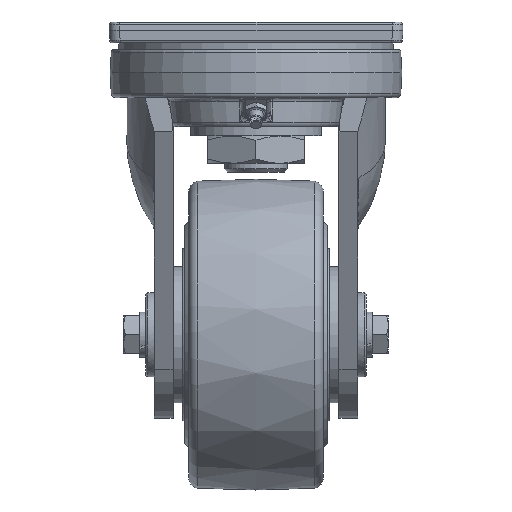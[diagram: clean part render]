
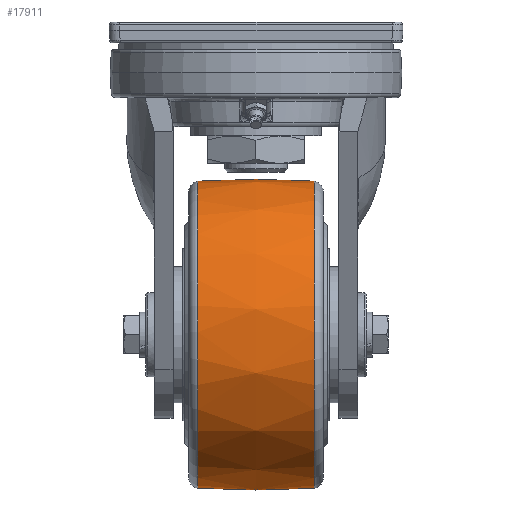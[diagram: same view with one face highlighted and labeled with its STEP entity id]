
A CAD part, left-side view. The second image highlights one B-rep face of the part: STEP entity #17911.
In plain terms, the highlighted free-form (B-spline) face has degree [2, 2] with [3, 9] control points.
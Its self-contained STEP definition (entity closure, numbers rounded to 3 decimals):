
#16=(
BOUNDED_SURFACE()
B_SPLINE_SURFACE(2,2,((#32064,#32065,#32066,#32067,#32068,#32069,#32070,
#32071,#32072),(#32073,#32074,#32075,#32076,#32077,#32078,#32079,#32080,
#32081),(#32082,#32083,#32084,#32085,#32086,#32087,#32088,#32089,#32090)),
 .UNSPECIFIED.,.F.,.T.,.F.)
B_SPLINE_SURFACE_WITH_KNOTS((3,3),(3,2,2,2,3),(-0.132,0.132),
(-3.142,-1.571,0.,1.571,3.142),
 .UNSPECIFIED.)
GEOMETRIC_REPRESENTATION_ITEM()
RATIONAL_B_SPLINE_SURFACE(((1.,0.707,1.,0.707,1.,
0.707,1.,0.707,1.),(0.991,0.701,
0.991,0.701,0.991,0.701,
0.991,0.701,0.991),(1.,0.707,
1.,0.707,1.,0.707,1.,0.707,1.)))
REPRESENTATION_ITEM('')
SURFACE()
);
#1561=CIRCLE('',#18891,73.171);
#1562=CIRCLE('',#18892,73.171);
#1563=CIRCLE('',#18893,210.);
#1564=CIRCLE('',#18894,73.171);
#1565=CIRCLE('',#18895,73.171);
#2687=FACE_OUTER_BOUND('',#3759,.T.);
#3759=EDGE_LOOP('',(#16372,#16373,#16374,#16375,#16376,#16377));
#8552=VERTEX_POINT('',#32059);
#8553=VERTEX_POINT('',#32061);
#8554=VERTEX_POINT('',#32091);
#8555=VERTEX_POINT('',#32093);
#11176=EDGE_CURVE('',#8552,#8553,#1561,.T.);
#11177=EDGE_CURVE('',#8553,#8552,#1562,.T.);
#11178=EDGE_CURVE('',#8552,#8554,#1563,.T.);
#11179=EDGE_CURVE('',#8554,#8555,#1564,.T.);
#11180=EDGE_CURVE('',#8555,#8554,#1565,.T.);
#16372=ORIENTED_EDGE('',*,*,#11177,.F.);
#16373=ORIENTED_EDGE('',*,*,#11176,.F.);
#16374=ORIENTED_EDGE('',*,*,#11178,.T.);
#16375=ORIENTED_EDGE('',*,*,#11179,.T.);
#16376=ORIENTED_EDGE('',*,*,#11180,.T.);
#16377=ORIENTED_EDGE('',*,*,#11178,.F.);
#17911=ADVANCED_FACE('',(#2687),#16,.F.);
#18891=AXIS2_PLACEMENT_3D('',#32062,#22333,#22334);
#18892=AXIS2_PLACEMENT_3D('',#32063,#22335,#22336);
#18893=AXIS2_PLACEMENT_3D('',#32092,#22337,#22338);
#18894=AXIS2_PLACEMENT_3D('',#32094,#22339,#22340);
#18895=AXIS2_PLACEMENT_3D('',#32095,#22341,#22342);
#22333=DIRECTION('center_axis',(0.,1.,0.));
#22334=DIRECTION('ref_axis',(-0.514,0.,-0.858));
#22335=DIRECTION('center_axis',(0.,1.,0.));
#22336=DIRECTION('ref_axis',(-0.514,0.,-0.858));
#22337=DIRECTION('center_axis',(0.858,0.,
-0.514));
#22338=DIRECTION('ref_axis',(0.514,0.,0.858));
#22339=DIRECTION('center_axis',(0.,1.,0.));
#22340=DIRECTION('ref_axis',(-0.514,0.,-0.858));
#22341=DIRECTION('center_axis',(0.,1.,0.));
#22342=DIRECTION('ref_axis',(-0.514,0.,-0.858));
#32059=CARTESIAN_POINT('',(85.876,27.659,-73.215));
#32061=CARTESIAN_POINT('',(-14.485,27.659,-98.424));
#32062=CARTESIAN_POINT('Origin',(48.3,27.659,-136.));
#32063=CARTESIAN_POINT('Origin',(48.3,27.659,-136.));
#32064=CARTESIAN_POINT('Ctrl Pts',(85.876,-27.659,-73.215));
#32065=CARTESIAN_POINT('Ctrl Pts',(148.661,-27.659,-110.79));
#32066=CARTESIAN_POINT('Ctrl Pts',(111.085,-27.659,-173.576));
#32067=CARTESIAN_POINT('Ctrl Pts',(73.51,-27.659,-236.361));
#32068=CARTESIAN_POINT('Ctrl Pts',(10.724,-27.659,-198.785));
#32069=CARTESIAN_POINT('Ctrl Pts',(-52.061,-27.659,
-161.21));
#32070=CARTESIAN_POINT('Ctrl Pts',(-14.485,-27.659,
-98.424));
#32071=CARTESIAN_POINT('Ctrl Pts',(23.09,-27.659,-35.639));
#32072=CARTESIAN_POINT('Ctrl Pts',(85.876,-27.659,-73.215));
#32073=CARTESIAN_POINT('Ctrl Pts',(87.763,0.,
-70.061));
#32074=CARTESIAN_POINT('Ctrl Pts',(153.701,0.,
-109.524));
#32075=CARTESIAN_POINT('Ctrl Pts',(114.239,0.,
-175.463));
#32076=CARTESIAN_POINT('Ctrl Pts',(74.776,0.,
-241.401));
#32077=CARTESIAN_POINT('Ctrl Pts',(8.837,0.,
-201.939));
#32078=CARTESIAN_POINT('Ctrl Pts',(-57.101,0.,
-162.476));
#32079=CARTESIAN_POINT('Ctrl Pts',(-17.639,0.,
-96.537));
#32080=CARTESIAN_POINT('Ctrl Pts',(21.824,0.,
-30.599));
#32081=CARTESIAN_POINT('Ctrl Pts',(87.763,0.,
-70.061));
#32082=CARTESIAN_POINT('Ctrl Pts',(85.876,27.659,-73.215));
#32083=CARTESIAN_POINT('Ctrl Pts',(148.661,27.659,-110.79));
#32084=CARTESIAN_POINT('Ctrl Pts',(111.085,27.659,-173.576));
#32085=CARTESIAN_POINT('Ctrl Pts',(73.51,27.659,-236.361));
#32086=CARTESIAN_POINT('Ctrl Pts',(10.724,27.659,-198.785));
#32087=CARTESIAN_POINT('Ctrl Pts',(-52.061,27.659,-161.21));
#32088=CARTESIAN_POINT('Ctrl Pts',(-14.485,27.659,-98.424));
#32089=CARTESIAN_POINT('Ctrl Pts',(23.09,27.659,-35.639));
#32090=CARTESIAN_POINT('Ctrl Pts',(85.876,27.659,-73.215));
#32091=CARTESIAN_POINT('',(85.876,-27.659,-73.215));
#32092=CARTESIAN_POINT('Origin',(-21.027,0.,
-251.839));
#32093=CARTESIAN_POINT('',(-14.485,-27.659,-98.424));
#32094=CARTESIAN_POINT('Origin',(48.3,-27.659,-136.));
#32095=CARTESIAN_POINT('Origin',(48.3,-27.659,-136.));
